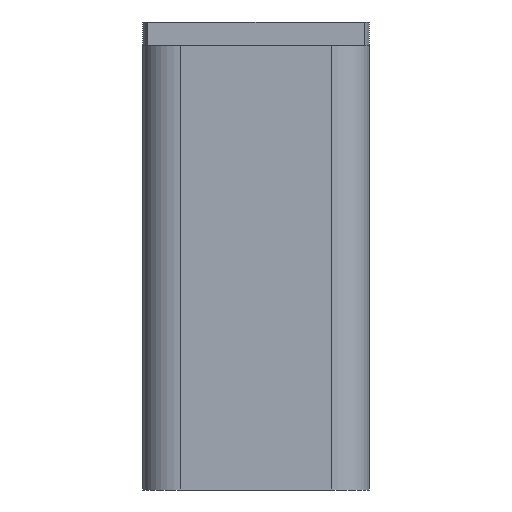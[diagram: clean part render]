
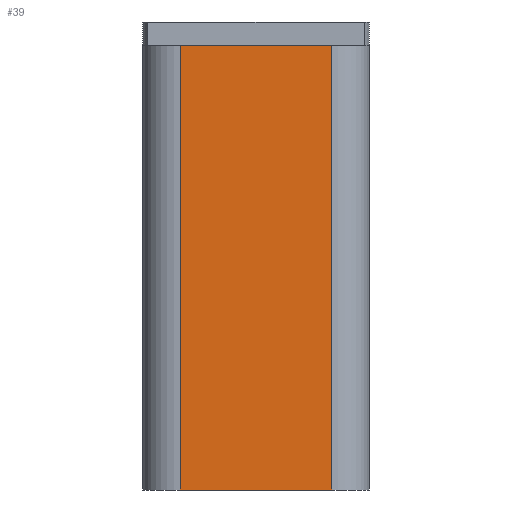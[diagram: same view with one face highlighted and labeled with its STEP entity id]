
A CAD part, front view. The second image highlights one B-rep face of the part: STEP entity #39.
In plain terms, the highlighted planar face has unit normal (0, -1, 0).
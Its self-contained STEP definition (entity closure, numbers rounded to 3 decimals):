
#39 = ADVANCED_FACE('',(#40),#54,.F.);
#40 = FACE_BOUND('',#41,.F.);
#41 = EDGE_LOOP('',(#42,#77,#105,#131));
#42 = ORIENTED_EDGE('',*,*,#43,.F.);
#43 = EDGE_CURVE('',#44,#46,#48,.T.);
#44 = VERTEX_POINT('',#45);
#45 = CARTESIAN_POINT('',(0.2,-20.5,7.1));
#46 = VERTEX_POINT('',#47);
#47 = CARTESIAN_POINT('',(1.8,-20.5,7.1));
#48 = SURFACE_CURVE('',#49,(#53,#65),.PCURVE_S1.);
#49 = LINE('',#50,#51);
#50 = CARTESIAN_POINT('',(-0.2,-20.5,7.1));
#51 = VECTOR('',#52,1.);
#52 = DIRECTION('',(1.,0.,0.));
#53 = PCURVE('',#54,#59);
#54 = PLANE('',#55);
#55 = AXIS2_PLACEMENT_3D('',#56,#57,#58);
#56 = CARTESIAN_POINT('',(-0.2,-20.5,7.1));
#57 = DIRECTION('',(0.,1.,0.));
#58 = DIRECTION('',(1.,0.,0.));
#59 = DEFINITIONAL_REPRESENTATION('',(#60),#64);
#60 = LINE('',#61,#62);
#61 = CARTESIAN_POINT('',(0.,0.));
#62 = VECTOR('',#63,1.);
#63 = DIRECTION('',(1.,0.));
#64 = ( GEOMETRIC_REPRESENTATION_CONTEXT(2) 
PARAMETRIC_REPRESENTATION_CONTEXT() REPRESENTATION_CONTEXT('2D SPACE',''
  ) );
#65 = PCURVE('',#66,#71);
#66 = PLANE('',#67);
#67 = AXIS2_PLACEMENT_3D('',#68,#69,#70);
#68 = CARTESIAN_POINT('',(1.,-15.3,7.1));
#69 = DIRECTION('',(0.,0.,1.));
#70 = DIRECTION('',(1.,0.,-0.));
#71 = DEFINITIONAL_REPRESENTATION('',(#72),#76);
#72 = LINE('',#73,#74);
#73 = CARTESIAN_POINT('',(-1.2,-5.2));
#74 = VECTOR('',#75,1.);
#75 = DIRECTION('',(1.,0.));
#76 = ( GEOMETRIC_REPRESENTATION_CONTEXT(2) 
PARAMETRIC_REPRESENTATION_CONTEXT() REPRESENTATION_CONTEXT('2D SPACE',''
  ) );
#77 = ORIENTED_EDGE('',*,*,#78,.T.);
#78 = EDGE_CURVE('',#44,#79,#81,.T.);
#79 = VERTEX_POINT('',#80);
#80 = CARTESIAN_POINT('',(0.2,-20.5,11.8));
#81 = SURFACE_CURVE('',#82,(#86,#93),.PCURVE_S1.);
#82 = LINE('',#83,#84);
#83 = CARTESIAN_POINT('',(0.2,-20.5,7.1));
#84 = VECTOR('',#85,1.);
#85 = DIRECTION('',(0.,0.,1.));
#86 = PCURVE('',#54,#87);
#87 = DEFINITIONAL_REPRESENTATION('',(#88),#92);
#88 = LINE('',#89,#90);
#89 = CARTESIAN_POINT('',(0.4,0.));
#90 = VECTOR('',#91,1.);
#91 = DIRECTION('',(0.,-1.));
#92 = ( GEOMETRIC_REPRESENTATION_CONTEXT(2) 
PARAMETRIC_REPRESENTATION_CONTEXT() REPRESENTATION_CONTEXT('2D SPACE',''
  ) );
#93 = PCURVE('',#94,#99);
#94 = CYLINDRICAL_SURFACE('',#95,0.4);
#95 = AXIS2_PLACEMENT_3D('',#96,#97,#98);
#96 = CARTESIAN_POINT('',(0.2,-20.1,7.1));
#97 = DIRECTION('',(0.,0.,1.));
#98 = DIRECTION('',(0.,-1.,0.));
#99 = DEFINITIONAL_REPRESENTATION('',(#100),#104);
#100 = LINE('',#101,#102);
#101 = CARTESIAN_POINT('',(-0.,0.));
#102 = VECTOR('',#103,1.);
#103 = DIRECTION('',(-0.,1.));
#104 = ( GEOMETRIC_REPRESENTATION_CONTEXT(2) 
PARAMETRIC_REPRESENTATION_CONTEXT() REPRESENTATION_CONTEXT('2D SPACE',''
  ) );
#105 = ORIENTED_EDGE('',*,*,#106,.T.);
#106 = EDGE_CURVE('',#79,#107,#109,.T.);
#107 = VERTEX_POINT('',#108);
#108 = CARTESIAN_POINT('',(1.8,-20.5,11.8));
#109 = SURFACE_CURVE('',#110,(#114,#120),.PCURVE_S1.);
#110 = LINE('',#111,#112);
#111 = CARTESIAN_POINT('',(-0.1,-20.5,11.8));
#112 = VECTOR('',#113,1.);
#113 = DIRECTION('',(1.,0.,0.));
#114 = PCURVE('',#54,#115);
#115 = DEFINITIONAL_REPRESENTATION('',(#116),#119);
#116 = B_SPLINE_CURVE_WITH_KNOTS('',1,(#117,#118),.UNSPECIFIED.,.F.,.F.,
  (2,2),(0.3,1.9),.PIECEWISE_BEZIER_KNOTS.);
#117 = CARTESIAN_POINT('',(0.4,-4.7));
#118 = CARTESIAN_POINT('',(2.,-4.7));
#119 = ( GEOMETRIC_REPRESENTATION_CONTEXT(2) 
PARAMETRIC_REPRESENTATION_CONTEXT() REPRESENTATION_CONTEXT('2D SPACE',''
  ) );
#120 = PCURVE('',#121,#126);
#121 = PLANE('',#122);
#122 = AXIS2_PLACEMENT_3D('',#123,#124,#125);
#123 = CARTESIAN_POINT('',(0.,-20.9,11.8));
#124 = DIRECTION('',(0.,0.,1.));
#125 = DIRECTION('',(1.,0.,-0.));
#126 = DEFINITIONAL_REPRESENTATION('',(#127),#130);
#127 = B_SPLINE_CURVE_WITH_KNOTS('',1,(#128,#129),.UNSPECIFIED.,.F.,.F.,
  (2,2),(0.3,1.9),.PIECEWISE_BEZIER_KNOTS.);
#128 = CARTESIAN_POINT('',(0.2,0.4));
#129 = CARTESIAN_POINT('',(1.8,0.4));
#130 = ( GEOMETRIC_REPRESENTATION_CONTEXT(2) 
PARAMETRIC_REPRESENTATION_CONTEXT() REPRESENTATION_CONTEXT('2D SPACE',''
  ) );
#131 = ORIENTED_EDGE('',*,*,#132,.F.);
#132 = EDGE_CURVE('',#46,#107,#133,.T.);
#133 = SURFACE_CURVE('',#134,(#138,#145),.PCURVE_S1.);
#134 = LINE('',#135,#136);
#135 = CARTESIAN_POINT('',(1.8,-20.5,7.1));
#136 = VECTOR('',#137,1.);
#137 = DIRECTION('',(0.,0.,1.));
#138 = PCURVE('',#54,#139);
#139 = DEFINITIONAL_REPRESENTATION('',(#140),#144);
#140 = LINE('',#141,#142);
#141 = CARTESIAN_POINT('',(2.,0.));
#142 = VECTOR('',#143,1.);
#143 = DIRECTION('',(0.,-1.));
#144 = ( GEOMETRIC_REPRESENTATION_CONTEXT(2) 
PARAMETRIC_REPRESENTATION_CONTEXT() REPRESENTATION_CONTEXT('2D SPACE',''
  ) );
#145 = PCURVE('',#146,#151);
#146 = CYLINDRICAL_SURFACE('',#147,0.4);
#147 = AXIS2_PLACEMENT_3D('',#148,#149,#150);
#148 = CARTESIAN_POINT('',(1.8,-20.1,7.1));
#149 = DIRECTION('',(0.,0.,1.));
#150 = DIRECTION('',(0.,-1.,0.));
#151 = DEFINITIONAL_REPRESENTATION('',(#152),#156);
#152 = LINE('',#153,#154);
#153 = CARTESIAN_POINT('',(0.,0.));
#154 = VECTOR('',#155,1.);
#155 = DIRECTION('',(0.,1.));
#156 = ( GEOMETRIC_REPRESENTATION_CONTEXT(2) 
PARAMETRIC_REPRESENTATION_CONTEXT() REPRESENTATION_CONTEXT('2D SPACE',''
  ) );
